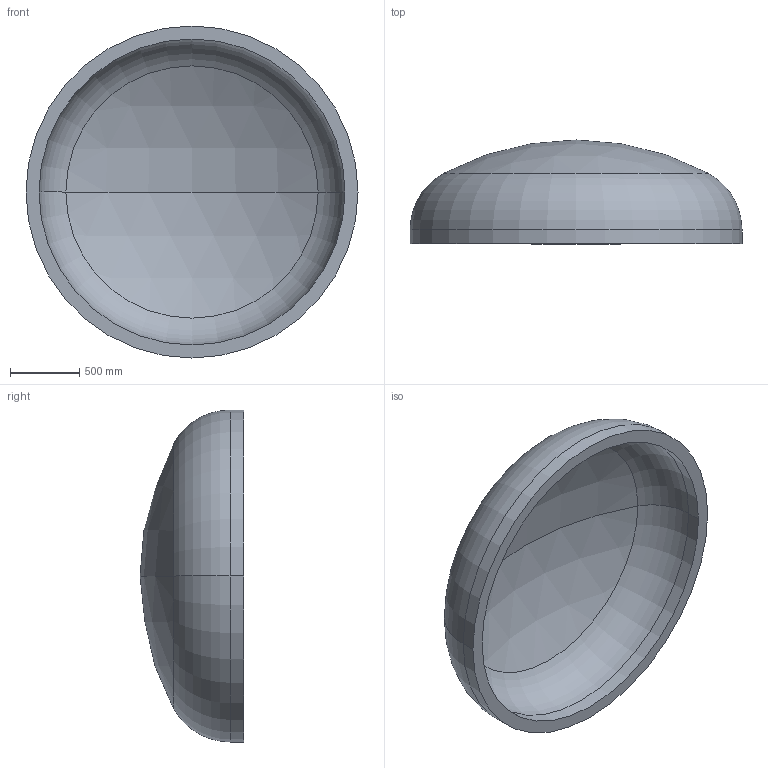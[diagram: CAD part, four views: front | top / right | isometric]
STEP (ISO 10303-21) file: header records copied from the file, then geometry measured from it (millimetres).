
FILE_DESCRIPTION (( 'STEP AP203' ), '1' );
FILE_NAME ('DIN 28013 Korbbogenform_-_Boden DIN 28013 - 2400 x 100 - I - s=94.step', '2016-07-01T15:40:17', ( '' ), ( '' ), 'SwSTEP 2.0', 'SolidWorks 2013', '' );
FILE_SCHEMA (( 'CONFIG_CONTROL_DESIGN' ));
Length unit declared in the file: millimetre
Products named in the file (1): DIN 28013 Korbbogenform_-_Boden DIN 28013 - 2400 x 100 - I - s=94
Bounding box: 2400 x 749.89 x 2400 mm (x, y, z)
Volume: 628018557.5 mm3; surface area: 14061583.2 mm2
Topology: 1 solids, 1 shells, 13 faces, 24 edges, 14 vertices
Faces by surface type: torus 4, cylinder 4, sphere 4, plane 1
Entity records: 407 total; most frequent: DIRECTION 72, CARTESIAN_POINT 52, ORIENTED_EDGE 48, AXIS2_PLACEMENT_3D 34, EDGE_CURVE 24, CIRCLE 20, EDGE_LOOP 14, VERTEX_POINT 14
